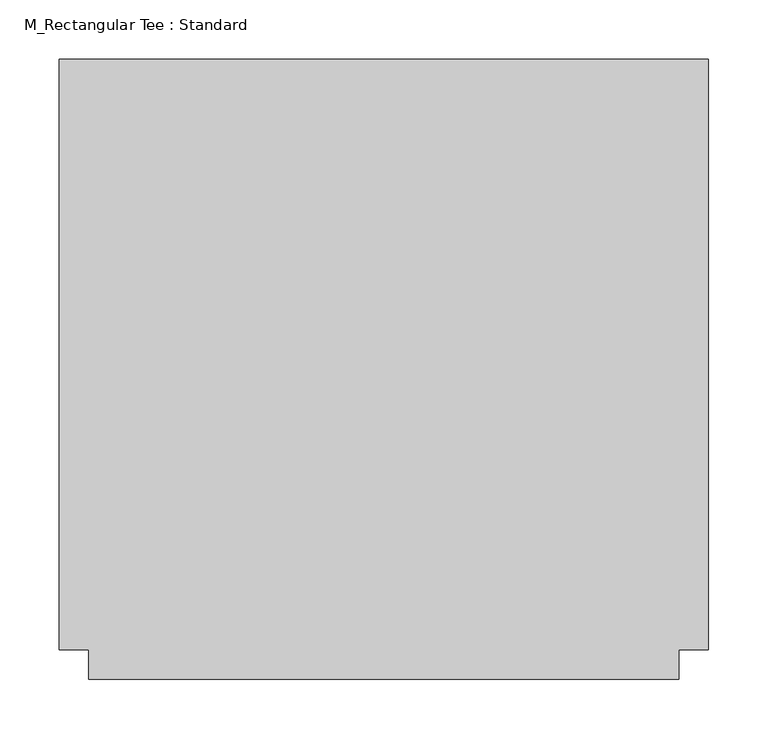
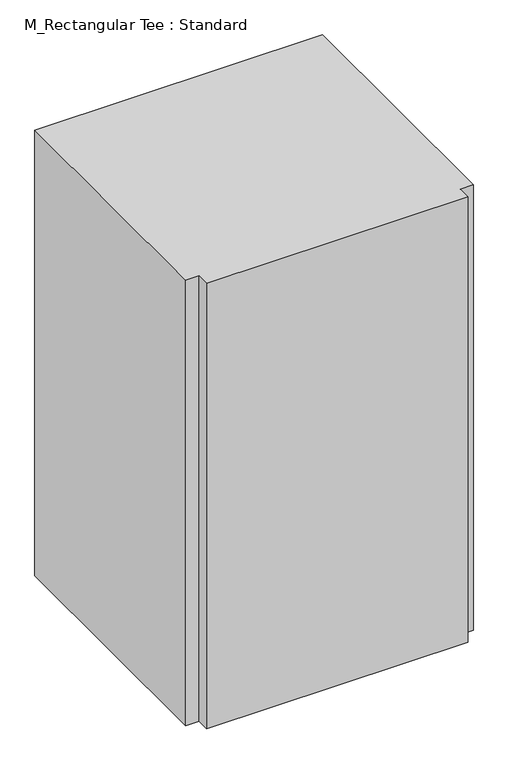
"""IFC4 building model written with IfcOpenShell, lengths in millimetres: duct fitting geometry, M_Rectangular Tee : Standard."""

from ifc_helpers import new_model, si_unit, frame, origin, place, context, project, spatial, polyline, outline, extrude, source, transform, mapped, element, save


def m_rectangular_tee_standard_badd32bc(model_context):
    return source(origin(), model_context, "Body", "SweptSolid", [
        extrude(outline(polyline([(-275.0, -250.0), (-275.0, 250.0), (275.0, 250.0), (275.0, -250.0), (250.0, -250.0), (250.0, -275.0), (-250.0, -275.0), (-250.0, -250.0), (-275.0, -250.0)])), frame((0.0, 0.0, -450.0), z_axis=(0.0, 0.0, 1.0), x_axis=(1.0, 0.0, 0.0)), (0.0, 0.0, 1.0), 900.0),
        extrude(outline(polyline([(-275.0, 250.0), (275.0, 250.0), (275.0, -250.0), (250.0, -250.0), (250.0, -275.0), (-250.0, -275.0), (-250.0, -250.0), (-275.0, -250.0), (-275.0, 250.0)])), frame((0.0, 0.0, -450.0), z_axis=(0.0, 0.0, 1.0), x_axis=(1.0, 0.0, 0.0)), (0.0, 0.0, 1.0), 900.0),
        extrude(outline(polyline([(-275.0, -250.0), (-275.0, 250.0), (275.0, 250.0), (275.0, -250.0), (250.0, -250.0), (250.0, -275.0), (-250.0, -275.0), (-250.0, -250.0), (-275.0, -250.0)])), frame((0.0, 0.0, -450.0), z_axis=(0.0, 0.0, 1.0), x_axis=(1.0, 0.0, 0.0)), (0.0, 0.0, 1.0), 900.0),
    ])


if __name__ == "__main__":
    model = new_model("IFC4")
    model_context = context("Model", 3, world=origin())
    ifc_project = project(units=[si_unit("LENGTHUNIT", "METRE", prefix="MILLI")], contexts=[model_context])
    site = spatial("IfcSite", under=ifc_project)
    building = spatial("IfcBuilding", under=site)
    placement = place(None, origin())
    m_rectangular_tee_standard_shape = m_rectangular_tee_standard_badd32bc(model_context)
    element("IfcDuctFitting", 1, ObjectType="M_Rectangular Tee : Standard", at=placement, inside=building, context=model_context, shape_type="MappedRepresentation", body=[
        mapped(m_rectangular_tee_standard_shape, transform((0.0, 0.0, 0.0), x_axis=(1.0, 0.0, 0.0), y_axis=(0.0, 1.0, 0.0), z_axis=(0.0, 0.0, 1.0))),
    ])
    save(model, "model.ifc")
